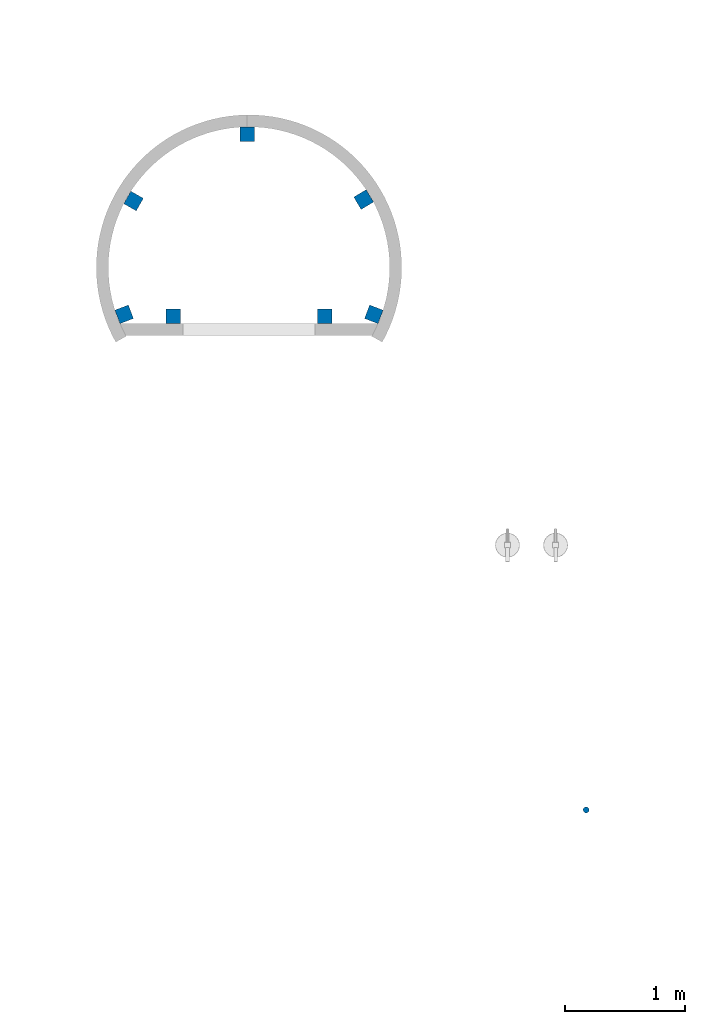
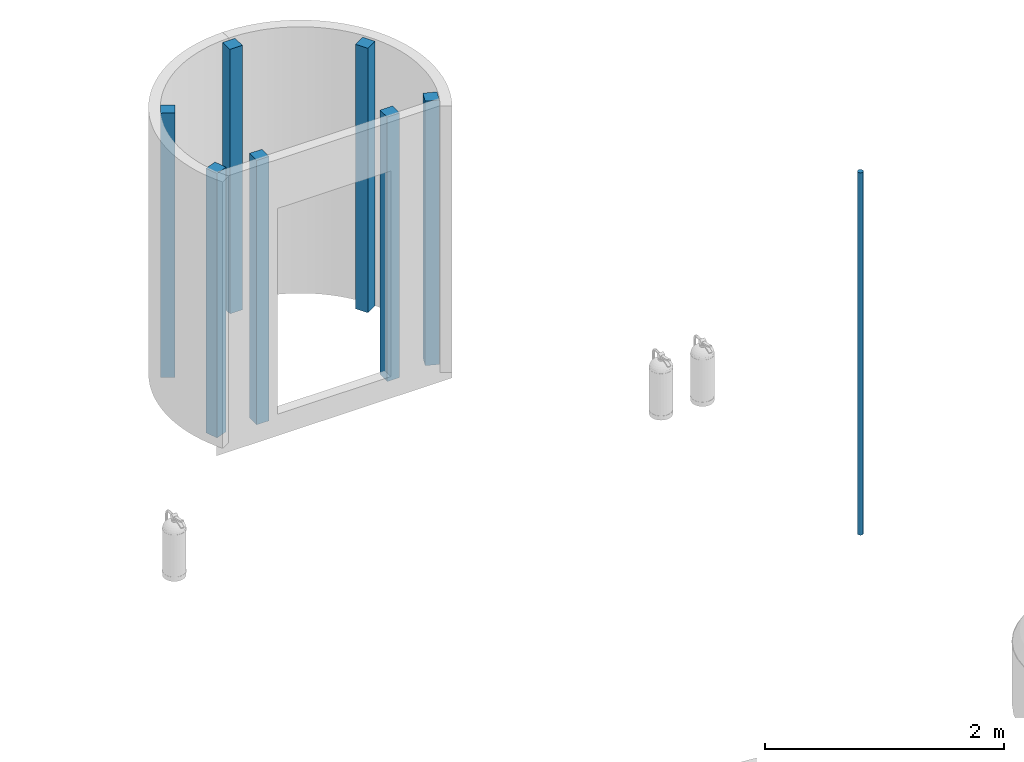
# One storey, part 1 of 4: 8 columns.
"""IFC4 building model written with IfcOpenShell, lengths in millimetres."""

from ifc_helpers import new_model, entity, si_unit, converted_unit, derived_unit, direction, frame, origin_with_axes, origin_2d_with_axis, place, context, subcontext, project, spatial, line, indexed_curve, circle, outline, extrude, material, material_profile, profile_set, type_object, element, save


model = new_model("IFC4")

# Units and contexts
model_context = context("Model", 3, precision=0.01, world=origin_with_axes(), true_north=direction((0.0, 1.0)))
body_context = subcontext(model_context, "Body", "Model", "MODEL_VIEW")
ifc_project = project(units=[si_unit("LENGTHUNIT", "METRE", prefix="MILLI"), si_unit("AREAUNIT", "SQUARE_METRE"), si_unit("VOLUMEUNIT", "CUBIC_METRE"), converted_unit("PLANEANGLEUNIT", "DEGREE", entity("IfcPlaneAngleMeasure", 0.0174532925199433), si_unit("PLANEANGLEUNIT", "RADIAN"), dimensions=[0, 0, 0, 0, 0, 0, 0]), converted_unit("TIMEUNIT", "Year", entity("IfcTimeMeasure", 31557600.0), si_unit("TIMEUNIT", "SECOND"), dimensions=[0, 0, 1, 0, 0, 0, 0]), si_unit("MASSUNIT", "GRAM", prefix="KILO"), si_unit("THERMODYNAMICTEMPERATUREUNIT", "DEGREE_CELSIUS"), si_unit("LUMINOUSINTENSITYUNIT", "LUMEN"), si_unit("ENERGYUNIT", "JOULE", prefix="MEGA"), derived_unit("THERMALCONDUCTANCEUNIT", [(si_unit("POWERUNIT", "WATT"), 1), (si_unit("LENGTHUNIT", "METRE"), -1), (si_unit("THERMODYNAMICTEMPERATUREUNIT", "KELVIN"), -1)]), derived_unit("SPECIFICHEATCAPACITYUNIT", [(si_unit("ENERGYUNIT", "JOULE"), 1), (si_unit("MASSUNIT", "GRAM", prefix="KILO"), -1), (si_unit("THERMODYNAMICTEMPERATUREUNIT", "KELVIN"), -1)]), derived_unit("MASSDENSITYUNIT", [(si_unit("MASSUNIT", "GRAM", prefix="KILO"), 1), (si_unit("VOLUMEUNIT", "CUBIC_METRE"), -1)])], contexts=[model_context])

# Site, building, storey
site_placement = place(None, origin_with_axes())
site = spatial("IfcSite", under=ifc_project, at=site_placement, Name="Exteriér", CompositionType="ELEMENT")
building_placement = place(site_placement, origin_with_axes())
building = spatial("IfcBuilding", under=site, at=building_placement, Name="Univerzitní lezecké centrum", CompositionType="ELEMENT")
storey_placement = place(building_placement, frame((0.0, 0.0, 9600.000000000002), z_axis=(0.0, 0.0, 1.0), x_axis=(1.0, 0.0, 0.0)))
storey = spatial("IfcBuildingStorey", under=building, at=storey_placement, Name="4.NP", CompositionType="ELEMENT", Elevation=9600.0)

# Columns
ifc_material_1 = material(Name="OBECNÉ - HRUBÉ STAVEBNÍ KONSTRUKCE")
ifc_material_profile_1 = material_profile(ifc_material_1, outline(indexed_curve([(-60.00000010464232, -60.00000010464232), (60.00000010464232, -60.00000010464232), (60.00000010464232, 60.00000010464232), (-60.00000010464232, 60.00000010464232)], segments=[line(1, 2, 3, 4, 1)])), Name="OBECNÉ - HRUBÉ STAVEBNÍ KONSTRUKCE")
ifc_profile_set_1 = profile_set([ifc_material_profile_1])
column_type_1 = type_object("IfcColumnType", Name="Uživatelský profil 120 x 120", PredefinedType="COLUMN")
column_1_placement = place(storey_placement, frame((3079.966389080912, 3293.405869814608, -119.9999999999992), z_axis=(0.0, 0.0, 1.0), x_axis=(0.9999999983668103, -5.715224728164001e-05, 0.0)))
element("IfcColumn", 1, at=column_1_placement, inside=storey, type_object=column_type_1, material=ifc_profile_set_1, Name="S006", PredefinedType="COLUMN", context=body_context, shape_type="SweptSolid", body=[
    extrude(outline(indexed_curve([(-60.00000010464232, -60.00000010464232), (60.00000010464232, -60.00000010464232), (60.00000010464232, 60.00000010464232), (-60.00000010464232, 60.00000010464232)], segments=[line(1, 2, 3, 4, 1)])), frame((0.0, 0.0, 0.0), z_axis=(0.0, 0.0, -1.0), x_axis=(-1.0, 0.0, 0.0)), (0.0, 0.0, -1.0), 2700.000000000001),
])
ifc_material_profile_2 = material_profile(ifc_material_1, outline(indexed_curve([(-60.00000007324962, -60.00000007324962), (60.00000007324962, -60.00000007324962), (60.00000007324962, 60.00000007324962), (-60.00000007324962, 60.00000007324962)], segments=[line(1, 2, 3, 4, 1)])), Name="OBECNÉ - HRUBÉ STAVEBNÍ KONSTRUKCE")
ifc_profile_set_2 = profile_set([ifc_material_profile_2])
column_2_placement = place(storey_placement, frame((1411.539252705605, 3310.94092530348, -119.9999999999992), z_axis=(0.0, 0.0, 1.0), x_axis=(0.9342555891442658, 0.3566041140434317, 0.0)))
element("IfcColumn", 2, at=column_2_placement, inside=storey, type_object=column_type_1, material=ifc_profile_set_2, Name="S006", PredefinedType="COLUMN", context=body_context, shape_type="SweptSolid", body=[
    extrude(outline(indexed_curve([(-60.00000007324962, -60.00000007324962), (60.00000007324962, -60.00000007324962), (60.00000007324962, 60.00000007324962), (-60.00000007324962, 60.00000007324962)], segments=[line(1, 2, 3, 4, 1)])), origin_with_axes(), (0.0, 0.0, 1.0), 2700.000000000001),
])
ifc_material_profile_3 = material_profile(ifc_material_1, outline(indexed_curve([(-60.00000007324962, -60.00000007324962), (60.00000007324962, -60.00000007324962), (60.00000007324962, 60.00000007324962), (-60.00000007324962, 60.00000007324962)], segments=[line(1, 2, 3, 4, 1)])), Name="OBECNÉ - HRUBÉ STAVEBNÍ KONSTRUKCE")
ifc_profile_set_3 = profile_set([ifc_material_profile_3])
column_3_placement = place(storey_placement, frame((3488.141807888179, 3310.881584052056, -119.9999999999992), z_axis=(0.0, 0.0, 1.0), x_axis=(0.9342352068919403, -0.3566575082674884, 0.0)))
element("IfcColumn", 3, at=column_3_placement, inside=storey, type_object=column_type_1, material=ifc_profile_set_3, Name="S006", PredefinedType="COLUMN", context=body_context, shape_type="SweptSolid", body=[
    extrude(outline(indexed_curve([(-60.00000007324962, -60.00000007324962), (60.00000007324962, -60.00000007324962), (60.00000007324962, 60.00000007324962), (-60.00000007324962, 60.00000007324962)], segments=[line(1, 2, 3, 4, 1)])), frame((0.0, 0.0, 0.0), z_axis=(0.0, 0.0, -1.0), x_axis=(-1.0, 0.0, 0.0)), (0.0, 0.0, -1.0), 2700.000000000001),
])
ifc_material_profile_4 = material_profile(ifc_material_1, outline(indexed_curve([(-60.00000010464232, -60.00000010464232), (60.00000010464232, -60.00000010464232), (60.00000010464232, 60.00000010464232), (-60.00000010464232, 60.00000010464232)], segments=[line(1, 2, 3, 4, 1)])), Name="OBECNÉ - HRUBÉ STAVEBNÍ KONSTRUKCE")
ifc_profile_set_4 = profile_set([ifc_material_profile_4])
column_4_placement = place(storey_placement, frame((2434.703625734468, 4807.584161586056, -119.9999999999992), z_axis=(0.0, 0.0, 1.0), x_axis=(1.0, 0.0, 0.0)))
element("IfcColumn", 4, at=column_4_placement, inside=storey, type_object=column_type_1, material=ifc_profile_set_4, Name="S006", PredefinedType="COLUMN", context=body_context, shape_type="SweptSolid", body=[
    extrude(outline(indexed_curve([(-60.00000010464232, -60.00000010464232), (60.00000010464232, -60.00000010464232), (60.00000010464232, 60.00000010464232), (-60.00000010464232, 60.00000010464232)], segments=[line(1, 2, 3, 4, 1)])), origin_with_axes(), (0.0, 0.0, 1.0), 2700.000000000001),
])
ifc_material_profile_5 = material_profile(ifc_material_1, outline(indexed_curve([(-60.00000010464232, -60.00000010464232), (60.00000010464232, -60.00000010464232), (60.00000010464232, 60.00000010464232), (-60.00000010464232, 60.00000010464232)], segments=[line(1, 2, 3, 4, 1)])), Name="OBECNÉ - HRUBÉ STAVEBNÍ KONSTRUKCE")
ifc_profile_set_5 = profile_set([ifc_material_profile_5])
column_5_placement = place(storey_placement, frame((1489.53625742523, 4253.287418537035, -119.9999999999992), z_axis=(0.0, 0.0, 1.0), x_axis=(0.867866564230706, -0.4967973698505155, 0.0)))
element("IfcColumn", 5, at=column_5_placement, inside=storey, type_object=column_type_1, material=ifc_profile_set_5, Name="S007", PredefinedType="COLUMN", context=body_context, shape_type="SweptSolid", body=[
    extrude(outline(indexed_curve([(-60.00000010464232, -60.00000010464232), (60.00000010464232, -60.00000010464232), (60.00000010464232, 60.00000010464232), (-60.00000010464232, 60.00000010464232)], segments=[line(1, 2, 3, 4, 1)])), origin_with_axes(), (0.0, 0.0, 1.0), 2700.000000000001),
])
ifc_material_profile_6 = material_profile(ifc_material_1, outline(indexed_curve([(-60.00000010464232, -60.00000010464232), (60.00000010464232, -60.00000010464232), (60.00000010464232, 60.00000010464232), (-60.00000010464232, 60.00000010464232)], segments=[line(1, 2, 3, 4, 1)])), Name="OBECNÉ - HRUBÉ STAVEBNÍ KONSTRUKCE")
ifc_profile_set_6 = profile_set([ifc_material_profile_6])
column_6_placement = place(storey_placement, frame((3403.472159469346, 4265.511352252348, -119.9999999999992), z_axis=(0.0, 0.0, 1.0), x_axis=(0.8580664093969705, 0.5135387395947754, 0.0)))
element("IfcColumn", 6, at=column_6_placement, inside=storey, type_object=column_type_1, material=ifc_profile_set_6, Name="S008", PredefinedType="COLUMN", context=body_context, shape_type="SweptSolid", body=[
    extrude(outline(indexed_curve([(-60.00000010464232, -60.00000010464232), (60.00000010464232, -60.00000010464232), (60.00000010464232, 60.00000010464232), (-60.00000010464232, 60.00000010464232)], segments=[line(1, 2, 3, 4, 1)])), origin_with_axes(), (0.0, 0.0, 1.0), 2700.000000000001),
])
ifc_material_profile_7 = material_profile(ifc_material_1, outline(indexed_curve([(-60.00000010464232, -60.00000010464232), (60.00000010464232, -60.00000010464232), (60.00000010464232, 60.00000010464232), (-60.00000010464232, 60.00000010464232)], segments=[line(1, 2, 3, 4, 1)])), Name="OBECNÉ - HRUBÉ STAVEBNÍ KONSTRUKCE")
ifc_profile_set_7 = profile_set([ifc_material_profile_7])
column_7_placement = place(storey_placement, frame((1819.713671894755, 3293.441882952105, -119.9999999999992), z_axis=(0.0, 0.0, 1.0), x_axis=(1.0, 0.0, 0.0)))
element("IfcColumn", 7, at=column_7_placement, inside=storey, type_object=column_type_1, material=ifc_profile_set_7, Name="S006", PredefinedType="COLUMN", context=body_context, shape_type="SweptSolid", body=[
    extrude(outline(indexed_curve([(-60.00000010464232, -60.00000010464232), (60.00000010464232, -60.00000010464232), (60.00000010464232, 60.00000010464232), (-60.00000010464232, 60.00000010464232)], segments=[line(1, 2, 3, 4, 1)])), origin_with_axes(), (0.0, 0.0, 1.0), 2700.000000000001),
])
ifc_material_2 = material(Name="Nerez ocel")
column_type_2 = type_object("IfcColumnType", Name="Nerez ocel D50", PredefinedType="COLUMN")
column_8_placement = place(storey_placement, frame((5254.299777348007, -811.357326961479, 0.0), z_axis=(0.0, 0.0, 1.0), x_axis=(1.0, 0.0, 0.0)))
element("IfcColumn", 8, at=column_8_placement, inside=storey, type_object=column_type_2, material=ifc_material_2, Name="ZV04", PredefinedType="COLUMN", context=body_context, shape_type="SweptSolid", body=[
    extrude(circle(Radius=25.00009448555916, at=origin_2d_with_axis()), origin_with_axes(), (0.0, 0.0, 1.0), 3699.999999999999),
])

save(model, "model.ifc")
